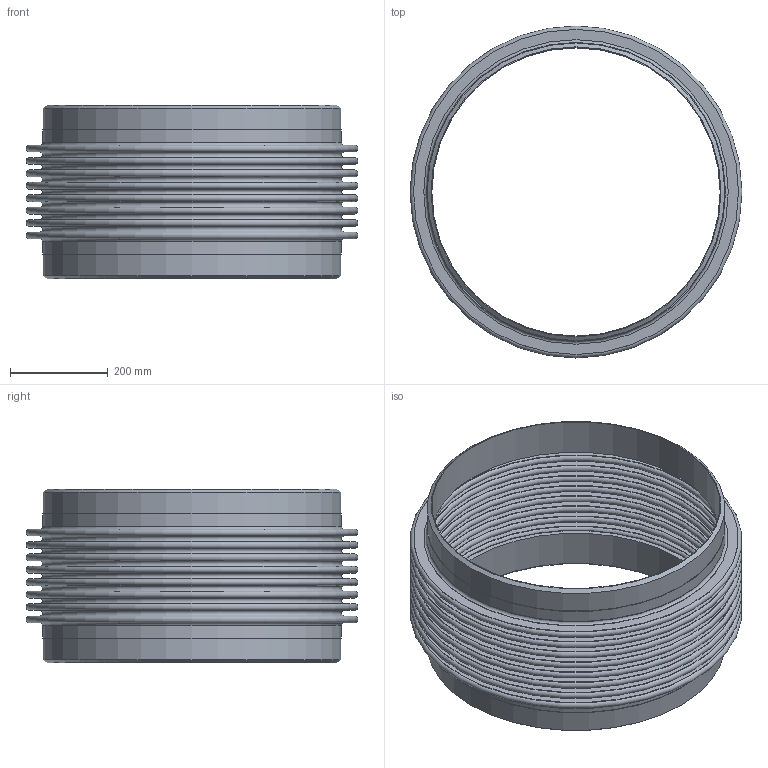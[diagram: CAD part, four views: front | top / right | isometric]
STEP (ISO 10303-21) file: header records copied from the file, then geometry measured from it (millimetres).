
FILE_DESCRIPTION(/* description */ (''),/* implementation_level */ '2;1');
FILE_NAME(/* name */ 'PIPE- 24- 85 PSIG.stp',/* time_stamp */ '2026-07-23T09:30:29-05:00',/* author */ ('jorgef'),/* organization */ (''),/* preprocessor_version */ 'ST-DEVELOPER v20.1',/* originating_system */ 'Autodesk Inventor 2026',/* authorisation */ '');
FILE_SCHEMA (('AUTOMOTIVE_DESIGN { 1 0 10303 214 3 1 1 }'));
Length unit declared in the file: inch
Products named in the file (1): PIPE- 24- 85 PSIG ASSEMBLY PART
Bounding box: 679.45 x 679.45 x 355.6 mm (x, y, z)
Volume: 4381303.7 mm3; surface area: 3289649.8 mm2
Topology: 1 solids, 1 shells, 80 faces, 126 edges, 84 vertices
Faces by surface type: plane 38, torus 34, cylinder 6, cone 2
Full cylindrical faces by diameter (mm): 590.55 x2, 609.6 x2, 612.038 x2
Entity records: 2035 total; most frequent: DIRECTION 406, CARTESIAN_POINT 291, ORIENTED_EDGE 252, AXIS2_PLACEMENT_3D 199, EDGE_CURVE 126, EDGE_LOOP 118, CIRCLE 118, VERTEX_POINT 84
